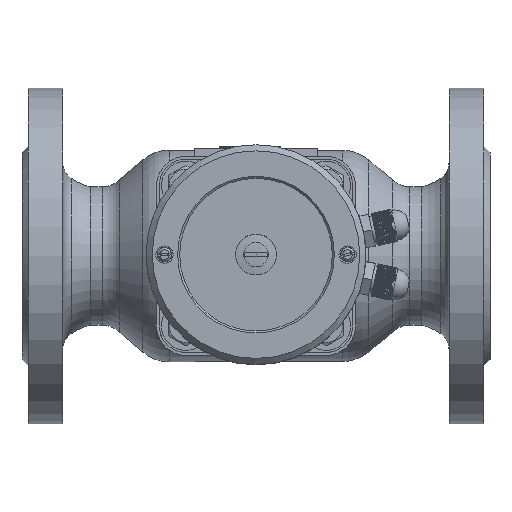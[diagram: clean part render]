
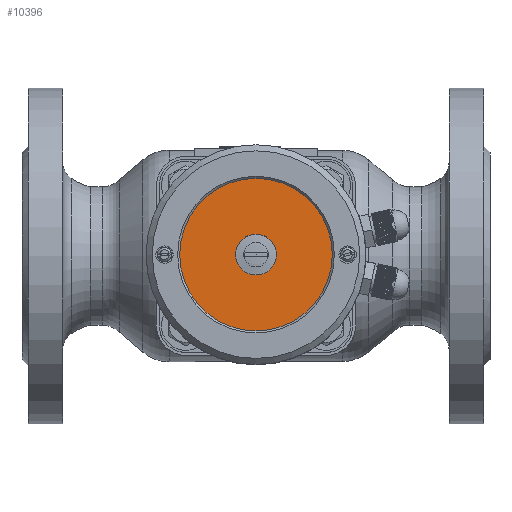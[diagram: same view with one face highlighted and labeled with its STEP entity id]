
A CAD part, top view. The second image highlights one B-rep face of the part: STEP entity #10396.
In plain terms, the highlighted planar face has unit normal (0, 0, 1).
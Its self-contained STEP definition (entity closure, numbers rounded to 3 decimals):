
#10396=ADVANCED_FACE('',(#30259,#30261),#30263,.T.);
#30259=FACE_BOUND('',#30260,.T.);
#30260=EDGE_LOOP('',(#44452));
#30261=FACE_BOUND('',#30262,.T.);
#30262=EDGE_LOOP('',(#44453));
#30263=PLANE('',#30264);
#30264=AXIS2_PLACEMENT_3D('',#30265,#30266,#30267);
#30265=CARTESIAN_POINT('',(0.,0.,384.506));
#30266=DIRECTION('',(0.,0.,1.));
#30267=DIRECTION('',(1.,0.,0.));
#44452=ORIENTED_EDGE('',*,*,#51994,.T.);
#44453=ORIENTED_EDGE('',*,*,#51999,.F.);
#51994=EDGE_CURVE('',#59488,#59488,#59489,.T.);
#51999=EDGE_CURVE('',#59498,#59498,#59499,.T.);
#59488=VERTEX_POINT('',#87154);
#59489=CIRCLE('',#87155,37.5);
#59498=VERTEX_POINT('',#87179);
#59499=CIRCLE('',#87180,10.007);
#87154=CARTESIAN_POINT('',(37.5,0.,384.506));
#87155=AXIS2_PLACEMENT_3D('',#87156,#87157,#87158);
#87156=CARTESIAN_POINT('',(0.,0.,384.506));
#87157=DIRECTION('',(0.,0.,1.));
#87158=DIRECTION('',(1.,0.,0.));
#87179=CARTESIAN_POINT('',(10.007,0.,384.506));
#87180=AXIS2_PLACEMENT_3D('',#87181,#87182,#87183);
#87181=CARTESIAN_POINT('',(0.,0.,384.506));
#87182=DIRECTION('',(0.,0.,1.));
#87183=DIRECTION('',(1.,0.,0.));
